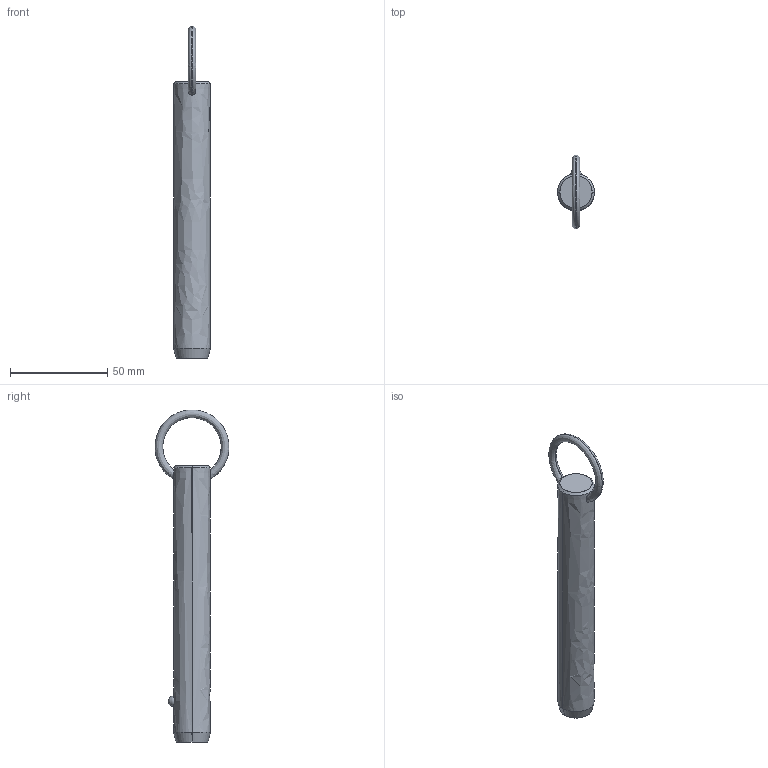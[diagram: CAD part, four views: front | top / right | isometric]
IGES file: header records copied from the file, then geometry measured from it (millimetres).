
Start section: SolidWorks IGES file using analytic representation for surfaces
Global section: file name: C:\Users\liam_\OneDrive\Documents\WORK\Work for WixRoyd\Job Files\J-00019 - Matt Davis CAD Checking\04. CAD Drawings\automotion20190605\P1250.2_v2\P1250.2_v2_20190729_IGES\P1250.075-430.igs; native system: SolidWorks 2017; preprocessor: SolidWorks 2017; author: liam_; date: 190729.235441; units: millimetre
Bounding box: 19 x 38.01 x 170.98 mm (x, y, z)
Surface area: 10032.7 mm2 (no closed solid volume)
Topology: 0 solids, 0 shells, 12 faces, 294 edges, 292 vertices
Faces by surface type: revolution 8, bspline 4
